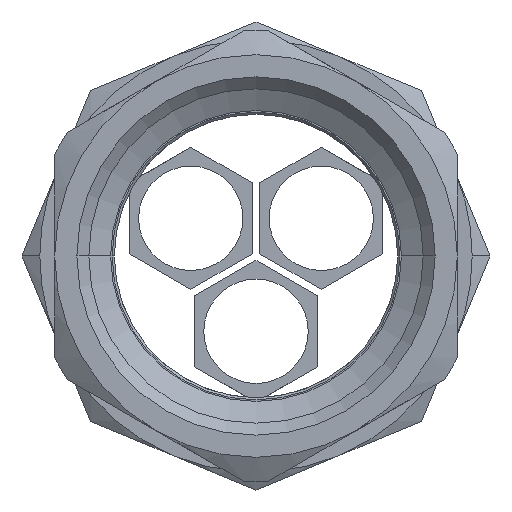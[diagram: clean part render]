
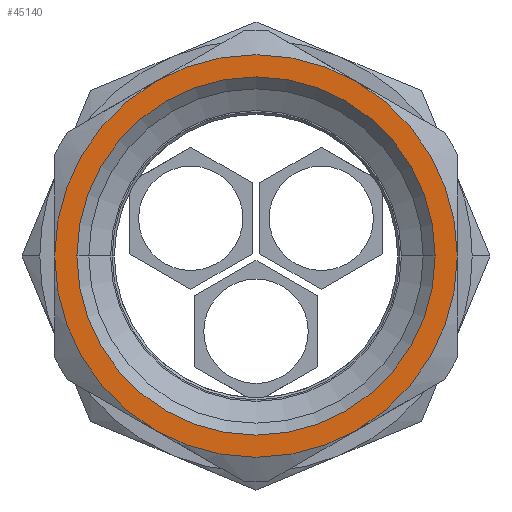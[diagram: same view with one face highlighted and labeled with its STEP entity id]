
A CAD part, front view. The second image highlights one B-rep face of the part: STEP entity #45140.
In plain terms, the highlighted planar face has unit normal (0, -1, 0).
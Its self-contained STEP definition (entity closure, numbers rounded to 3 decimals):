
#43330=CARTESIAN_POINT('',(364.272,-13.397,
23.383));
#43340=VERTEX_POINT('',#43330);
#44570=CARTESIAN_POINT('',(350.772,-13.397,
0.));
#44580=VERTEX_POINT('',#44570);
#44630=CARTESIAN_POINT('',(377.772,-13.397,0.));
#44640=DIRECTION('',(0.,-1.,0.));
#44650=DIRECTION('',(-1.,0.,0.));
#44660=AXIS2_PLACEMENT_3D('',#44630,#44640,#44650);
#44670=CIRCLE('',#44660,27.);
#44680=EDGE_CURVE('',#43340,#44580,#44670,.T.);
#44730=CARTESIAN_POINT('',(352.259,-13.397,
0.));
#44740=DIRECTION('',(-0.,-1.,0.));
#44750=DIRECTION('',(-1.,0.,0.));
#44760=AXIS2_PLACEMENT_3D('',#44730,#44740,#44750);
#44770=PLANE('',#44760);
#44780=CARTESIAN_POINT('',(391.272,-13.397,
23.383));
#44790=VERTEX_POINT('',#44780);
#44800=EDGE_CURVE('',#44790,#43340,#44670,.T.);
#44810=ORIENTED_EDGE('',*,*,#44800,.T.);
#44820=CARTESIAN_POINT('',(404.772,-13.397,
0.));
#44830=VERTEX_POINT('',#44820);
#44840=EDGE_CURVE('',#44830,#44790,#44670,.T.);
#44850=ORIENTED_EDGE('',*,*,#44840,.T.);
#44860=CARTESIAN_POINT('',(391.272,-13.397,
-23.383));
#44870=VERTEX_POINT('',#44860);
#44880=EDGE_CURVE('',#44870,#44830,#44670,.T.);
#44890=ORIENTED_EDGE('',*,*,#44880,.T.);
#44900=CARTESIAN_POINT('',(364.272,-13.397,
-23.383));
#44910=VERTEX_POINT('',#44900);
#44920=EDGE_CURVE('',#44910,#44870,#44670,.T.);
#44930=ORIENTED_EDGE('',*,*,#44920,.T.);
#44940=EDGE_CURVE('',#44580,#44910,#44670,.T.);
#44950=ORIENTED_EDGE('',*,*,#44940,.T.);
#44960=ORIENTED_EDGE('',*,*,#44680,.T.);
#44970=EDGE_LOOP('',(#44960,#44950,#44930,#44890,#44850,#44810));
#44980=FACE_OUTER_BOUND('',#44970,.T.);
#44990=CARTESIAN_POINT('',(377.772,-13.397,0.));
#45000=DIRECTION('',(0.,-1.,0.));
#45010=DIRECTION('',(-1.,0.,0.));
#45020=AXIS2_PLACEMENT_3D('',#44990,#45000,#45010);
#45030=CIRCLE('',#45020,24.025);
#45040=CARTESIAN_POINT('',(353.747,-13.397,
0.));
#45050=VERTEX_POINT('',#45040);
#45060=CARTESIAN_POINT('',(401.797,-13.397,
0.));
#45070=VERTEX_POINT('',#45060);
#45080=EDGE_CURVE('',#45050,#45070,#45030,.T.);
#45090=ORIENTED_EDGE('',*,*,#45080,.F.);
#45100=EDGE_CURVE('',#45070,#45050,#45030,.T.);
#45110=ORIENTED_EDGE('',*,*,#45100,.F.);
#45120=EDGE_LOOP('',(#45110,#45090));
#45130=FACE_BOUND('',#45120,.T.);
#45140=ADVANCED_FACE('',(#44980,#45130),#44770,.T.);
